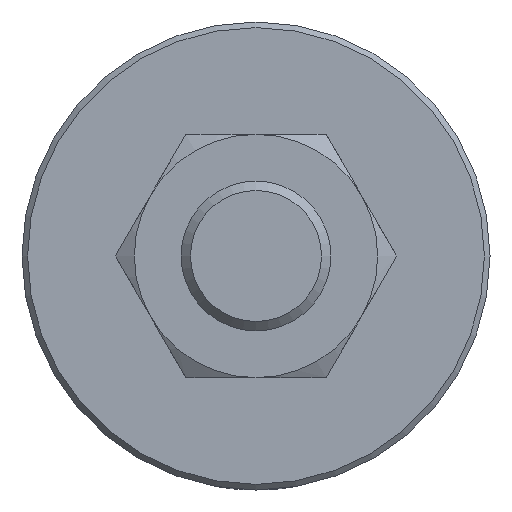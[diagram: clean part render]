
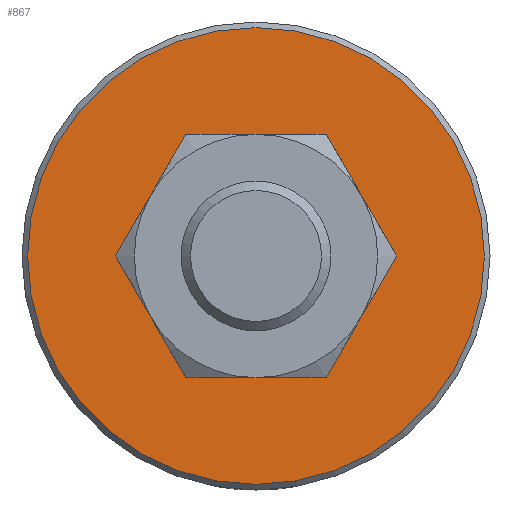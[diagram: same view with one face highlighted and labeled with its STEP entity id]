
A CAD part, front view. The second image highlights one B-rep face of the part: STEP entity #867.
In plain terms, the highlighted planar face has unit normal (0, -1, 0) as drawn and (0, 0, -1) by its records, which use the part's own axes.
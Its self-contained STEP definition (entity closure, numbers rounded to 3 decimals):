
#142=PLANE('',#960);
#178=CIRCLE('',#957,12.2);
#180=CIRCLE('',#961,3.459);
#253=FACE_BOUND('',#379,.T.);
#293=FACE_OUTER_BOUND('',#378,.T.);
#378=EDGE_LOOP('',(#671));
#379=EDGE_LOOP('',(#672));
#475=VERTEX_POINT('',#1526);
#477=VERTEX_POINT('',#1532);
#552=EDGE_CURVE('',#475,#475,#178,.T.);
#554=EDGE_CURVE('',#477,#477,#180,.T.);
#671=ORIENTED_EDGE('',*,*,#552,.F.);
#672=ORIENTED_EDGE('',*,*,#554,.T.);
#867=ADVANCED_FACE('',(#293,#253),#142,.T.);
#957=AXIS2_PLACEMENT_3D('',#1527,#1120,#1121);
#960=AXIS2_PLACEMENT_3D('',#1531,#1126,#1127);
#961=AXIS2_PLACEMENT_3D('',#1533,#1128,#1129);
#1120=DIRECTION('center_axis',(0.,0.,1.));
#1121=DIRECTION('ref_axis',(-1.,0.,0.));
#1126=DIRECTION('center_axis',(0.,0.,-1.));
#1127=DIRECTION('ref_axis',(-1.,0.,0.));
#1128=DIRECTION('center_axis',(0.,0.,1.));
#1129=DIRECTION('ref_axis',(1.,0.,0.));
#1526=CARTESIAN_POINT('',(12.2,0.,0.));
#1527=CARTESIAN_POINT('Origin',(0.,0.,0.));
#1531=CARTESIAN_POINT('Origin',(0.,0.,0.));
#1532=CARTESIAN_POINT('',(-3.459,0.,0.));
#1533=CARTESIAN_POINT('Origin',(0.,0.,0.));
